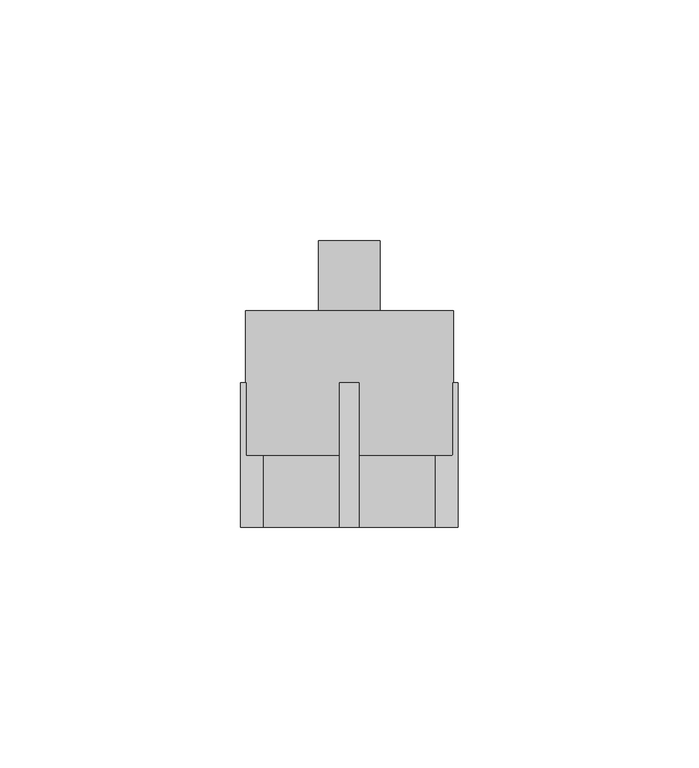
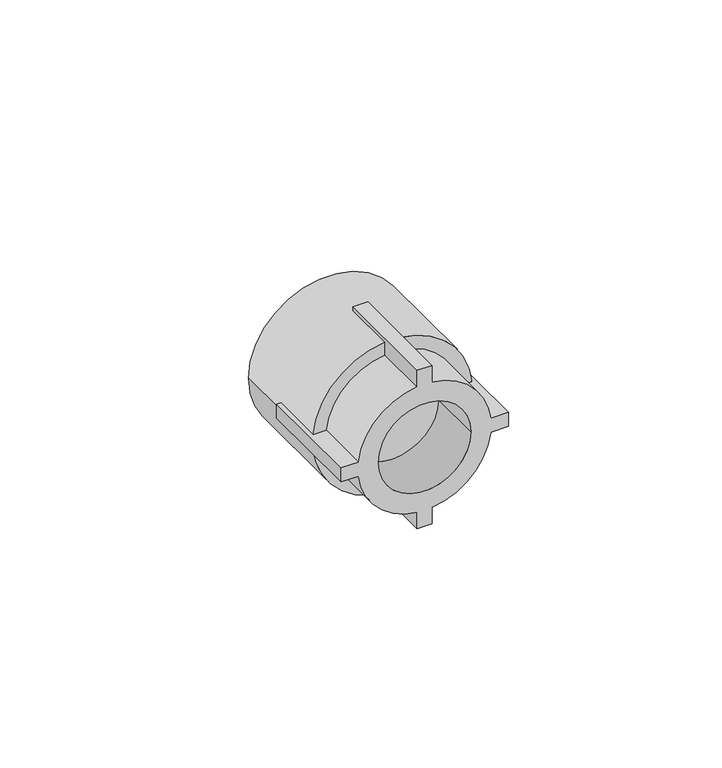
"""IFC4 building model written with IfcOpenShell, lengths in millimetres: pipe fitting geometry, EGB_VASEN_ PPR_Entronque rosca macho WXR101 : Entronque rosca macho WXR101."""

from ifc_helpers import new_model, si_unit, point, frame, origin, origin_2d, place, context, project, spatial, polyline, circle_curve, trimmed, segment, composite_curve, outline, extrude, source, transform, mapped, element, save
from ifc_brep_helpers import plane_surface, cylinder_surface, revolved_surface, advanced_brep


def pipe_fitting_c2c154e6(model_context):
    return source(origin(), model_context, "Body", "SolidModel", [
        advanced_brep(
        [(2.0, -15.0, 22.6), (-2.0, -15.0, 22.6), (-2.0, -15.0, 17.8885438), (-17.8885438, -15.0, 2.0), (-22.6, -15.0, 2.0), (-22.6, -15.0, -2.0), (-17.8885438, -15.0, -2.0), (-2.0, -15.0, -17.8885438), (-2.0, -15.0, -22.6), (2.0, -15.0, -22.6), (2.0, -15.0, -17.8885438), (17.8885438, -15.0, -2.0), (22.6, -15.0, -2.0), (22.6, -15.0, 2.0), (17.8885438, -15.0, 2.0), (2.0, -15.0, 17.8885438), (-12.5, -15.0, 0.0), (12.5, -15.0, 0.0), (-2.0, 15.0, 22.6), (2.0, 15.0, 22.6), (2.0, 15.0, 21.5072081), (-2.0, 15.0, 21.5072081), (2.0, 15.0, -22.6), (-2.0, 15.0, -22.6), (-2.0, 15.0, -21.5072081), (2.0, 15.0, -21.5072081), (22.6, 15.0, 2.0), (22.6, 15.0, -2.0), (21.5072081, 15.0, -2.0), (21.6, 15.0, 0.0), (21.5072081, 15.0, 2.0), (-22.6, 15.0, -2.0), (-22.6, 15.0, 2.0), (-21.5072081, 15.0, 2.0), (-21.6, 15.0, 0.0), (-21.5072081, 15.0, -2.0), (2.0, 0.0, 17.8885438), (2.0, 0.0, 21.5072081), (-2.0, 0.0, 21.5072081), (-2.0, 0.0, 17.8885438), (2.0, 0.0, -21.5072081), (2.0, 0.0, -17.8885438), (-2.0, 0.0, -17.8885438), (-2.0, 0.0, -21.5072081), (17.8885438, 0.0, -2.0), (21.5072081, 0.0, -2.0), (21.5072081, 0.0, 2.0), (17.8885438, 0.0, 2.0), (-21.5072081, 0.0, -2.0), (-17.8885438, 0.0, -2.0), (-17.8885438, 0.0, 2.0), (-21.5072081, 0.0, 2.0), (-12.5, 0.0, 0.0), (12.5, 0.0, 0.0), (-21.6, 30.0, 0.0), (21.6, 30.0, 0.0)],
        [
            (0, 1),
            (1, 2),
            (2, 3, circle_curve(frame((0.0, -15.0, 0.0), z_axis=(0.0, -1.0, 0.0), x_axis=(1.0, 0.0, 0.0)), 18.0)),
            (3, 4),
            (4, 5),
            (5, 6),
            (6, 7, circle_curve(frame((0.0, -15.0, 0.0), z_axis=(0.0, -1.0, 0.0), x_axis=(1.0, 0.0, 0.0)), 18.0)),
            (7, 8),
            (8, 9),
            (9, 10),
            (10, 11, circle_curve(frame((0.0, -15.0, 0.0), z_axis=(0.0, -1.0, 0.0), x_axis=(1.0, 0.0, 0.0)), 18.0)),
            (11, 12),
            (12, 13),
            (13, 14),
            (14, 15, circle_curve(frame((0.0, -15.0, 0.0), z_axis=(0.0, -1.0, 0.0), x_axis=(1.0, 0.0, 0.0)), 18.0)),
            (15, 0),
            (16, 17, circle_curve(frame((0.0, -15.0, 0.0), z_axis=(0.0, 1.0, 0.0), x_axis=(1.0, 0.0, 0.0)), 12.5)),
            (17, 16, circle_curve(frame((0.0, -15.0, 0.0), z_axis=(0.0, 1.0, 0.0), x_axis=(1.0, 0.0, 0.0)), 12.5)),
            (18, 19),
            (19, 20),
            (20, 21, circle_curve(frame((0.0, 15.0, 0.0), z_axis=(0.0, -1.0, 0.0), x_axis=(1.0, 0.0, 0.0)), 21.6)),
            (21, 18),
            (22, 23),
            (23, 24),
            (24, 25, circle_curve(frame((0.0, 15.0, 0.0), z_axis=(0.0, -1.0, 0.0), x_axis=(1.0, 0.0, 0.0)), 21.6)),
            (25, 22),
            (26, 27),
            (27, 28),
            (28, 29, circle_curve(frame((0.0, 15.0, 0.0), z_axis=(0.0, -1.0, 0.0), x_axis=(1.0, 0.0, 0.0)), 21.6)),
            (29, 30, circle_curve(frame((0.0, 15.0, 0.0), z_axis=(0.0, -1.0, 0.0), x_axis=(1.0, 0.0, 0.0)), 21.6)),
            (30, 26),
            (31, 32),
            (32, 33),
            (33, 34, circle_curve(frame((0.0, 15.0, 0.0), z_axis=(0.0, -1.0, 0.0), x_axis=(1.0, 0.0, 0.0)), 21.6)),
            (34, 35, circle_curve(frame((0.0, 15.0, 0.0), z_axis=(0.0, -1.0, 0.0), x_axis=(1.0, 0.0, 0.0)), 21.6)),
            (35, 31),
            (19, 0),
            (15, 36),
            (36, 37),
            (37, 20),
            (18, 1),
            (21, 38),
            (38, 39),
            (39, 2),
            (8, 23),
            (22, 9),
            (25, 40),
            (40, 41),
            (41, 10),
            (7, 42),
            (42, 43),
            (43, 24),
            (27, 12),
            (11, 44),
            (44, 45),
            (45, 28),
            (26, 13),
            (30, 46),
            (46, 47),
            (47, 14),
            (5, 31),
            (35, 48),
            (48, 49),
            (49, 6),
            (32, 4),
            (3, 50),
            (50, 51),
            (51, 33),
            (49, 42, circle_curve(frame((0.0, 0.0, 0.0), z_axis=(0.0, -1.0, 0.0), x_axis=(1.0, 0.0, 0.0)), 18.0)),
            (41, 44, circle_curve(frame((0.0, 0.0, 0.0), z_axis=(0.0, -1.0, 0.0), x_axis=(1.0, 0.0, 0.0)), 18.0)),
            (39, 50, circle_curve(frame((0.0, 0.0, 0.0), z_axis=(0.0, -1.0, 0.0), x_axis=(1.0, 0.0, 0.0)), 18.0)),
            (47, 36, circle_curve(frame((0.0, 0.0, 0.0), z_axis=(0.0, -1.0, 0.0), x_axis=(1.0, 0.0, 0.0)), 18.0)),
            (16, 52),
            (52, 53, circle_curve(frame((0.0, 0.0, 0.0), z_axis=(0.0, 1.0, 0.0), x_axis=(1.0, 0.0, 0.0)), 12.5)),
            (53, 17),
            (53, 52, circle_curve(frame((0.0, 0.0, 0.0), z_axis=(0.0, 1.0, 0.0), x_axis=(1.0, 0.0, 0.0)), 12.5)),
            (40, 45, circle_curve(frame((0.0, 0.0, 0.0), z_axis=(0.0, -1.0, 0.0), x_axis=(1.0, 0.0, 0.0)), 21.6)),
            (48, 43, circle_curve(frame((0.0, 0.0, 0.0), z_axis=(0.0, -1.0, 0.0), x_axis=(1.0, 0.0, 0.0)), 21.6)),
            (46, 37, circle_curve(frame((0.0, 0.0, 0.0), z_axis=(0.0, -1.0, 0.0), x_axis=(1.0, 0.0, 0.0)), 21.6)),
            (38, 51, circle_curve(frame((0.0, 0.0, 0.0), z_axis=(0.0, -1.0, 0.0), x_axis=(1.0, 0.0, 0.0)), 21.6)),
            (54, 55, circle_curve(frame((0.0, 30.0, 0.0), z_axis=(0.0, 1.0, 0.0), x_axis=(1.0, 0.0, 0.0)), 21.6)),
            (55, 54, circle_curve(frame((0.0, 30.0, 0.0), z_axis=(0.0, 1.0, 0.0), x_axis=(1.0, 0.0, 0.0)), 21.6)),
            (55, 29),
            (34, 54),
        ],
        [
            plane_surface(frame((0.0, -15.0, 0.0), z_axis=(0.0, -1.0, 0.0), x_axis=(0.0, 0.0, 1.0))),
            plane_surface(frame((0.0, 15.0, 0.0), z_axis=(0.0, 1.0, 0.0), x_axis=(0.0, 0.0, 1.0))),
            plane_surface(frame((2.0, -15.0, 17.0), z_axis=(1.0, 0.0, 0.0), x_axis=(0.0, 1.0, 0.0))),
            plane_surface(frame((2.0, -15.0, 22.6), z_axis=(0.0, 0.0, 1.0), x_axis=(0.0, 1.0, 0.0))),
            plane_surface(frame((-2.0, -15.0, 22.6), z_axis=(-1.0, 0.0, 0.0), x_axis=(0.0, 1.0, 0.0))),
            plane_surface(frame((-2.0, -15.0, -22.6), z_axis=(0.0, 0.0, -1.0), x_axis=(0.0, 1.0, 0.0))),
            plane_surface(frame((2.0, -15.0, -22.6), z_axis=(1.0, 0.0, 0.0), x_axis=(0.0, 1.0, 0.0))),
            plane_surface(frame((-2.0, -15.0, -17.0), z_axis=(-1.0, 0.0, 0.0), x_axis=(0.0, 1.0, 0.0))),
            plane_surface(frame((17.0, -15.0, -2.0), z_axis=(0.0, 0.0, -1.0), x_axis=(0.0, 1.0, 0.0))),
            plane_surface(frame((22.6, -15.0, -2.0), z_axis=(1.0, 0.0, 0.0), x_axis=(0.0, 1.0, 0.0))),
            plane_surface(frame((22.6, -15.0, 2.0), z_axis=(0.0, 0.0, 1.0), x_axis=(0.0, 1.0, 0.0))),
            plane_surface(frame((-22.6, -15.0, -2.0), z_axis=(0.0, 0.0, -1.0), x_axis=(0.0, 1.0, 0.0))),
            plane_surface(frame((-17.0, -15.0, 2.0), z_axis=(0.0, 0.0, 1.0), x_axis=(0.0, 1.0, 0.0))),
            plane_surface(frame((-22.6, -15.0, 2.0), z_axis=(-1.0, 0.0, 0.0), x_axis=(0.0, 1.0, 0.0))),
            cylinder_surface(frame((0.0, 0.0, 0.0), z_axis=(0.0, -1.0, 0.0), x_axis=(1.0, 0.0, 0.0)), 18.0),
            revolved_surface(polyline([(12.5, 0.0, 0.0), (12.5, -15.0, 0.0)]), (0.0, 0.0, 0.0), (0.0, 1.0, 0.0)),
            plane_surface(frame((21.6, 0.0, 0.0), z_axis=(0.0, -1.0, 0.0), x_axis=(0.0, 0.0, 1.0))),
            plane_surface(frame((21.6, 30.0, 0.0), z_axis=(0.0, 1.0, 0.0), x_axis=(0.0, 0.0, -1.0))),
            cylinder_surface(frame((0.0, 30.0, 0.0), z_axis=(0.0, -1.0, 0.0), x_axis=(1.0, 0.0, 0.0)), 21.6),
        ],
        [
            (0, [[1, 2, 3, 4, 5, 6, 7, 8, 9, 10, 11, 12, 13, 14, 15, 16], [17, 18]]),
            (1, [[19, 20, 21, 22]]),
            (1, [[23, 24, 25, 26]]),
            (1, [[27, 28, 29, 30, 31]]),
            (1, [[32, 33, 34, 35, 36]]),
            (2, [[37, -16, 38, 39, 40, -20]]),
            (3, [[-1, -37, -19, 41]]),
            (4, [[-41, -22, 42, 43, 44, -2]]),
            (5, [[-9, 45, -23, 46]]),
            (6, [[-46, -26, 47, 48, 49, -10]]),
            (7, [[-45, -8, 50, 51, 52, -24]]),
            (8, [[53, -12, 54, 55, 56, -28]]),
            (9, [[-13, -53, -27, 57]]),
            (10, [[-57, -31, 58, 59, 60, -14]]),
            (11, [[61, -36, 62, 63, 64, -6]]),
            (12, [[65, -4, 66, 67, 68, -33]]),
            (13, [[-5, -65, -32, -61]]),
            (14, [[-7, -64, 69, -50]]),
            (14, [[-11, -49, 70, -54]]),
            (14, [[-3, -44, 71, -66]]),
            (14, [[-15, -60, 72, -38]]),
            (15, [[-17, 73, 74, 75]]),
            (15, [[-18, -75, 76, -73]]),
            (16, [[-74, -76]]),
            (16, [[77, -55, -70, -48]]),
            (16, [[78, -51, -69, -63]]),
            (16, [[79, -39, -72, -59]]),
            (16, [[80, -67, -71, -43]]),
            (17, [[81, 82]]),
            (18, [[-82, 83, -29, -56, -77, -47, -25, -52, -78, -62, -35, 84]]),
            (18, [[-81, -84, -34, -68, -80, -42, -21, -40, -79, -58, -30, -83]]),
        ],
    ),
        extrude(outline(composite_curve([segment(trimmed(circle_curve(origin_2d(), 6.35), [point((0.0, -6.35))], [point((0.0, 6.35))], False, "CARTESIAN"), True, "CONTINUOUS"), segment(trimmed(circle_curve(origin_2d(), 6.35), [point((0.0, 6.35))], [point((0.0, -6.35))], False, "CARTESIAN"), True, "CONTINUOUS")], self_intersect=False)), frame((0.0, 15.0, 0.0), z_axis=(0.0, 1.0, 0.0), x_axis=(0.0, 0.0, 1.0)), (0.0, 0.0, 1.0), 29.5),
    ])


if __name__ == "__main__":
    model = new_model("IFC4")
    model_context = context("Model", 3, world=origin())
    ifc_project = project(units=[si_unit("LENGTHUNIT", "METRE", prefix="MILLI")], contexts=[model_context])
    site = spatial("IfcSite", under=ifc_project)
    building = spatial("IfcBuilding", under=site)
    placement = place(None, origin())
    pipe_fitting_shape = pipe_fitting_c2c154e6(model_context)
    element("IfcPipeFitting", 1, ObjectType="EGB_VASEN_ PPR_Entronque rosca macho WXR101 : Entronque rosca macho WXR101", at=placement, inside=building, context=model_context, shape_type="MappedRepresentation", body=[
        mapped(pipe_fitting_shape, transform((0.0, 0.0, 0.0), x_axis=(1.0, 0.0, 0.0), y_axis=(0.0, 1.0, 0.0), z_axis=(0.0, 0.0, 1.0))),
    ])
    save(model, "model.ifc")
